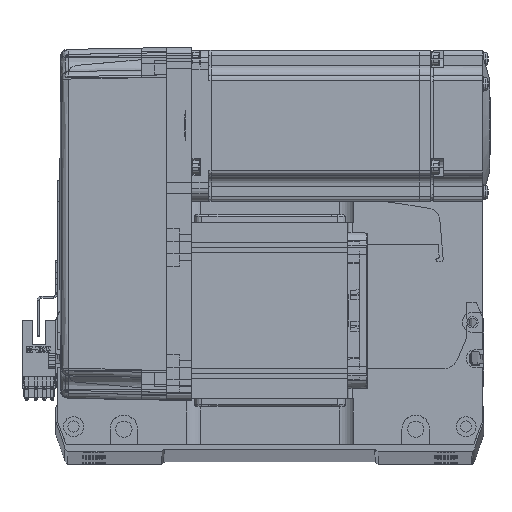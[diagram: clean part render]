
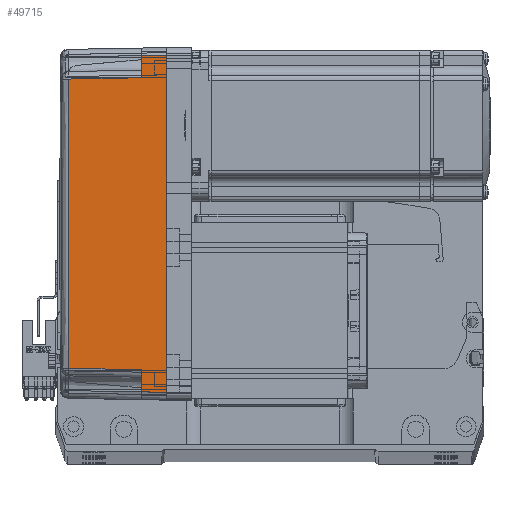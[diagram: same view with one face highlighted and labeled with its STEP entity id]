
A CAD part, top view. The second image highlights one B-rep face of the part: STEP entity #49715.
In plain terms, the highlighted planar face has unit normal (-0.018, 0, 1) as drawn and (0, 1, 0.017) by its records, which use the part's own axes.
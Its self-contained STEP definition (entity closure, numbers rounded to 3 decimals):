
#600 = ORIENTED_EDGE ( 'NONE', *, *, #41443, .T. ) ;
#711 = LINE ( 'NONE', #6730, #65857 ) ;
#988 = CARTESIAN_POINT ( 'NONE',  ( -58., 35.825, 10. ) ) ;
#1985 = LINE ( 'NONE', #25328, #46016 ) ;
#3132 = VECTOR ( 'NONE', #8413, 1000. ) ;
#3940 = VECTOR ( 'NONE', #17248, 1000. ) ;
#4806 = LINE ( 'NONE', #40143, #58961 ) ;
#6730 = CARTESIAN_POINT ( 'NONE',  ( -67., 36., 0. ) ) ;
#7327 = VERTEX_POINT ( 'NONE', #31257 ) ;
#8039 = CARTESIAN_POINT ( 'NONE',  ( 58., 35.825, 10. ) ) ;
#8413 = DIRECTION ( 'NONE',  ( 0.017, -0.017, 1. ) ) ;
#8848 = VERTEX_POINT ( 'NONE', #26981 ) ;
#11120 = DIRECTION ( 'NONE',  ( 0., -0.017, 1. ) ) ;
#11361 = DIRECTION ( 'NONE',  ( 0., 1., 0.017 ) ) ;
#11604 = PLANE ( 'NONE',  #60119 ) ;
#11764 = CARTESIAN_POINT ( 'NONE',  ( 57.495, 35.32, 38.985 ) ) ;
#12542 = EDGE_CURVE ( 'NONE', #15818, #61091, #1985, .T. ) ;
#14037 = LINE ( 'NONE', #24735, #19166 ) ;
#14292 = DIRECTION ( 'NONE',  ( -0.017, -0.017, 1. ) ) ;
#15343 = ORIENTED_EDGE ( 'NONE', *, *, #38932, .T. ) ;
#15702 = EDGE_CURVE ( 'NONE', #43098, #8848, #4806, .T. ) ;
#15818 = VERTEX_POINT ( 'NONE', #19833 ) ;
#15891 = B_SPLINE_CURVE_WITH_KNOTS ( 'NONE', 3,
 ( #37515, #20771, #21023, #42934 ),
 .UNSPECIFIED., .F., .F.,
 ( 4, 4 ),
 ( 0., 1. ),
 .UNSPECIFIED. ) ;
#16931 = EDGE_CURVE ( 'NONE', #49979, #28235, #67670, .T. ) ;
#17248 = DIRECTION ( 'NONE',  ( 0.017, 0.017, -1. ) ) ;
#18310 = CARTESIAN_POINT ( 'NONE',  ( 57.495, 35.32, 38.985 ) ) ;
#18575 = ORIENTED_EDGE ( 'NONE', *, *, #18734, .T. ) ;
#18734 = EDGE_CURVE ( 'NONE', #49159, #49979, #54689, .T. ) ;
#19166 = VECTOR ( 'NONE', #14292, 1000. ) ;
#19566 = CARTESIAN_POINT ( 'NONE',  ( -58., 35.825, 10. ) ) ;
#19833 = CARTESIAN_POINT ( 'NONE',  ( -66.826, 35.825, 10. ) ) ;
#20771 = CARTESIAN_POINT ( 'NONE',  ( -19.165, 35.316, 39.181 ) ) ;
#21023 = CARTESIAN_POINT ( 'NONE',  ( 19.165, 35.316, 39.181 ) ) ;
#22676 = DIRECTION ( 'NONE',  ( 0.017, -0.017, 1. ) ) ;
#24735 = CARTESIAN_POINT ( 'NONE',  ( 67.001, 36.001, -0.052 ) ) ;
#25328 = CARTESIAN_POINT ( 'NONE',  ( 70., 35.825, 10. ) ) ;
#25538 = DIRECTION ( 'NONE',  ( 1., 0., 0. ) ) ;
#26981 = CARTESIAN_POINT ( 'NONE',  ( 67., 36., 0. ) ) ;
#28235 = VERTEX_POINT ( 'NONE', #42523 ) ;
#31257 = CARTESIAN_POINT ( 'NONE',  ( -57.495, 35.32, 38.985 ) ) ;
#32683 = ORIENTED_EDGE ( 'NONE', *, *, #12542, .T. ) ;
#32832 = EDGE_CURVE ( 'NONE', #7327, #49159, #15891, .T. ) ;
#37002 = CARTESIAN_POINT ( 'NONE',  ( 70., 35.825, 10. ) ) ;
#37298 = ORIENTED_EDGE ( 'NONE', *, *, #32832, .T. ) ;
#37515 = CARTESIAN_POINT ( 'NONE',  ( -57.495, 35.32, 38.985 ) ) ;
#38932 = EDGE_CURVE ( 'NONE', #43098, #15818, #711, .T. ) ;
#40143 = CARTESIAN_POINT ( 'NONE',  ( 0., 36., 0. ) ) ;
#41443 = EDGE_CURVE ( 'NONE', #61091, #7327, #60653, .T. ) ;
#42391 = EDGE_CURVE ( 'NONE', #8848, #28235, #14037, .T. ) ;
#42523 = CARTESIAN_POINT ( 'NONE',  ( 66.826, 35.825, 10. ) ) ;
#42934 = CARTESIAN_POINT ( 'NONE',  ( 57.495, 35.32, 38.985 ) ) ;
#43098 = VERTEX_POINT ( 'NONE', #54287 ) ;
#44320 = ORIENTED_EDGE ( 'NONE', *, *, #16931, .T. ) ;
#46016 = VECTOR ( 'NONE', #25538, 1000. ) ;
#49159 = VERTEX_POINT ( 'NONE', #18310 ) ;
#49180 = CARTESIAN_POINT ( 'NONE',  ( 70., 36., 0. ) ) ;
#49715 = ADVANCED_FACE ( 'NONE', ( #57813 ), #11604, .T. ) ;
#49979 = VERTEX_POINT ( 'NONE', #8039 ) ;
#50539 = DIRECTION ( 'NONE',  ( 1., 0., 0. ) ) ;
#54287 = CARTESIAN_POINT ( 'NONE',  ( -67., 36., 0. ) ) ;
#54470 = ORIENTED_EDGE ( 'NONE', *, *, #42391, .F. ) ;
#54689 = LINE ( 'NONE', #11764, #3940 ) ;
#57813 = FACE_OUTER_BOUND ( 'NONE', #65949, .T. ) ;
#58961 = VECTOR ( 'NONE', #50539, 1000. ) ;
#59481 = ORIENTED_EDGE ( 'NONE', *, *, #15702, .F. ) ;
#60119 = AXIS2_PLACEMENT_3D ( 'NONE', #49180, #11361, #11120 ) ;
#60653 = LINE ( 'NONE', #19566, #3132 ) ;
#61091 = VERTEX_POINT ( 'NONE', #988 ) ;
#64112 = DIRECTION ( 'NONE',  ( 1., 0., 0. ) ) ;
#65857 = VECTOR ( 'NONE', #22676, 1000. ) ;
#65932 = VECTOR ( 'NONE', #64112, 1000. ) ;
#65949 = EDGE_LOOP ( 'NONE', ( #15343, #32683, #600, #37298, #18575, #44320, #54470, #59481 ) ) ;
#67670 = LINE ( 'NONE', #37002, #65932 ) ;
